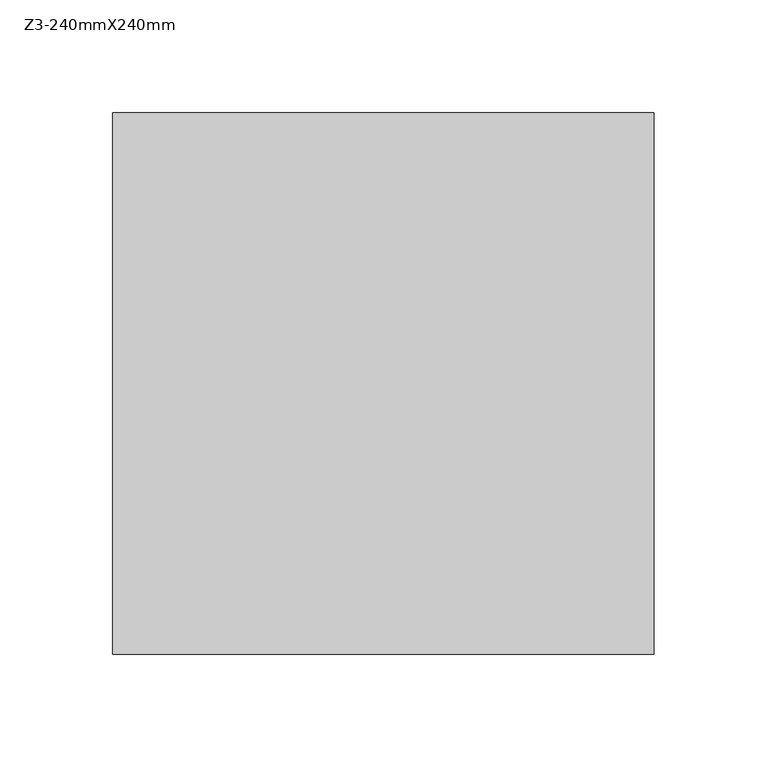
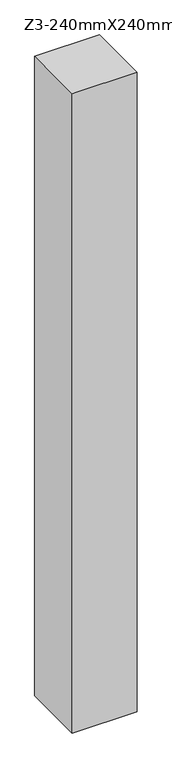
"""IFC4 building model written with IfcOpenShell, lengths in millimetres: column geometry, 混凝土 - 矩形 - 柱 : Z3-240mmX240mm."""

from ifc_helpers import new_model, si_unit, frame, origin, place, context, project, spatial, polyline, outline, extrude, source, transform, mapped, element, save


def z3_240mmx240mm_b4574760(model_context):
    return source(origin(), model_context, "Body", "SweptSolid", [
        extrude(outline(polyline([(120.0, -120.0), (-120.0, -120.0), (-120.0, 120.0), (120.0, 120.0), (120.0, -120.0)])), frame((0.0, 0.0, 7200.0), z_axis=(0.0, 0.0, 1.0), x_axis=(1.0, 0.0, 0.0)), (0.0, 0.0, 1.0), 2500.0),
    ])


if __name__ == "__main__":
    model = new_model("IFC4")
    model_context = context("Model", 3, world=origin())
    ifc_project = project(units=[si_unit("LENGTHUNIT", "METRE", prefix="MILLI")], contexts=[model_context])
    site = spatial("IfcSite", under=ifc_project)
    building = spatial("IfcBuilding", under=site)
    placement = place(None, origin())
    z3_240mmx240mm_shape = z3_240mmx240mm_b4574760(model_context)
    element("IfcColumn", 1, ObjectType="混凝土 - 矩形 - 柱 : Z3-240mmX240mm", at=placement, inside=building, context=model_context, shape_type="MappedRepresentation", body=[
        mapped(z3_240mmx240mm_shape, transform((0.0, 0.0, 0.0), x_axis=(1.0, 0.0, 0.0), y_axis=(0.0, 1.0, 0.0), z_axis=(0.0, 0.0, 1.0))),
    ])
    save(model, "model.ifc")
